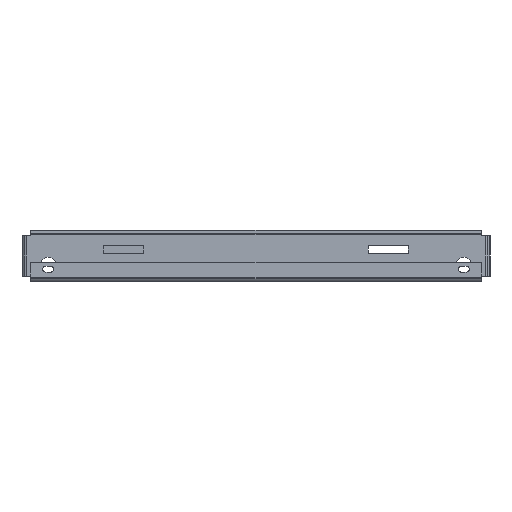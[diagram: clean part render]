
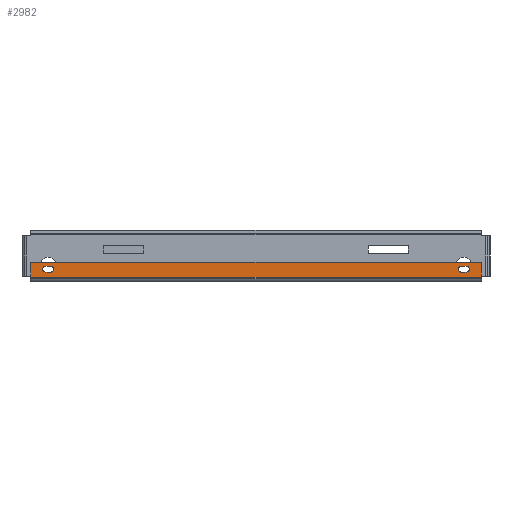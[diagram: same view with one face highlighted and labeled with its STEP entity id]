
A CAD part, front view. The second image highlights one B-rep face of the part: STEP entity #2982.
In plain terms, the highlighted planar face has unit normal (0, -1, 0) as drawn and (0, 0, -1) by its records, which use the part's own axes.
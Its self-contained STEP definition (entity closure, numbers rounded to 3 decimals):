
#11 = CARTESIAN_POINT ( 'NONE',  ( 547.294, 54.864, 0. ) ) ;
#42 = CARTESIAN_POINT ( 'NONE',  ( 10.16, 37.49, 0. ) ) ;
#127 = CARTESIAN_POINT ( 'NONE',  ( 27.877, 41.846, 0. ) ) ;
#143 = VERTEX_POINT ( 'NONE', #4566 ) ;
#175 = CARTESIAN_POINT ( 'NONE',  ( 37.008, 45.415, 0. ) ) ;
#214 = DIRECTION ( 'NONE',  ( 0., 0., 1. ) ) ;
#356 = AXIS2_PLACEMENT_3D ( 'NONE', #5348, #1552, #5995 ) ;
#382 = LINE ( 'NONE', #594, #5233 ) ;
#493 = VECTOR ( 'NONE', #5458, 1000. ) ;
#542 = ORIENTED_EDGE ( 'NONE', *, *, #5319, .T. ) ;
#594 = CARTESIAN_POINT ( 'NONE',  ( 27.877, 48.984, 0. ) ) ;
#649 = EDGE_CURVE ( 'NONE', #5526, #6110, #6862, .T. ) ;
#957 = VERTEX_POINT ( 'NONE', #3993 ) ;
#999 = CARTESIAN_POINT ( 'NONE',  ( 33.439, 45.415, 0. ) ) ;
#1020 = CARTESIAN_POINT ( 'NONE',  ( 537.134, 60.147, 0. ) ) ;
#1090 = CIRCLE ( 'NONE', #6882, 3.569 ) ;
#1095 = CARTESIAN_POINT ( 'NONE',  ( 547.294, 60.147, 0. ) ) ;
#1291 = CARTESIAN_POINT ( 'NONE',  ( 10.16, 60.147, 0. ) ) ;
#1356 = ORIENTED_EDGE ( 'NONE', *, *, #649, .T. ) ;
#1494 = CARTESIAN_POINT ( 'NONE',  ( 537.134, 54.864, 0. ) ) ;
#1510 = ORIENTED_EDGE ( 'NONE', *, *, #2686, .T. ) ;
#1552 = DIRECTION ( 'NONE',  ( 0., 0., 1. ) ) ;
#1568 = EDGE_CURVE ( 'NONE', #5241, #1810, #7700, .T. ) ;
#1623 = EDGE_CURVE ( 'NONE', #3509, #6534, #2402, .T. ) ;
#1639 = DIRECTION ( 'NONE',  ( 1., 0., 0. ) ) ;
#1729 = DIRECTION ( 'NONE',  ( 0., 0., -1. ) ) ;
#1810 = VERTEX_POINT ( 'NONE', #5204 ) ;
#1848 = EDGE_LOOP ( 'NONE', ( #8036, #1510, #1356, #4288, #4189 ) ) ;
#1924 = EDGE_CURVE ( 'NONE', #6110, #8136, #5257, .T. ) ;
#1974 = CARTESIAN_POINT ( 'NONE',  ( 27.877, 45.415, 0. ) ) ;
#2021 = CARTESIAN_POINT ( 'NONE',  ( 537.134, 37.49, 0. ) ) ;
#2363 = ORIENTED_EDGE ( 'NONE', *, *, #4015, .T. ) ;
#2364 = ORIENTED_EDGE ( 'NONE', *, *, #6526, .F. ) ;
#2402 = LINE ( 'NONE', #7715, #7311 ) ;
#2624 = DIRECTION ( 'NONE',  ( 1., 0., 0. ) ) ;
#2686 = EDGE_CURVE ( 'NONE', #5639, #5526, #6158, .T. ) ;
#2702 = CARTESIAN_POINT ( 'NONE',  ( 522.986, 45.415, 0. ) ) ;
#2729 = EDGE_CURVE ( 'NONE', #6684, #3509, #1090, .T. ) ;
#2732 = CARTESIAN_POINT ( 'NONE',  ( 547.294, 37.49, 0. ) ) ;
#2802 = VECTOR ( 'NONE', #5083, 1000. ) ;
#2868 = VERTEX_POINT ( 'NONE', #4150 ) ;
#2933 = CIRCLE ( 'NONE', #4084, 3.569 ) ;
#2954 = CARTESIAN_POINT ( 'NONE',  ( 27.877, 41.846, 0. ) ) ;
#2982 = ADVANCED_FACE ( 'NONE', ( #6053, #7581, #4166 ), #6148, .T. ) ;
#3260 = EDGE_CURVE ( 'NONE', #6534, #2868, #7063, .T. ) ;
#3320 = DIRECTION ( 'NONE',  ( 0., 0., 1. ) ) ;
#3509 = VERTEX_POINT ( 'NONE', #5039 ) ;
#3578 = DIRECTION ( 'NONE',  ( 0., 0., 1. ) ) ;
#3729 = VERTEX_POINT ( 'NONE', #1494 ) ;
#3742 = ORIENTED_EDGE ( 'NONE', *, *, #2729, .T. ) ;
#3804 = DIRECTION ( 'NONE',  ( -1., 0., 0. ) ) ;
#3824 = VERTEX_POINT ( 'NONE', #2021 ) ;
#3840 = DIRECTION ( 'NONE',  ( -1., 0., 0. ) ) ;
#3866 = ORIENTED_EDGE ( 'NONE', *, *, #1568, .T. ) ;
#3993 = CARTESIAN_POINT ( 'NONE',  ( 519.417, 41.846, 0. ) ) ;
#4014 = CARTESIAN_POINT ( 'NONE',  ( 519.417, 45.415, 0. ) ) ;
#4015 = EDGE_CURVE ( 'NONE', #3729, #3824, #5332, .T. ) ;
#4084 = AXIS2_PLACEMENT_3D ( 'NONE', #1974, #6417, #2624 ) ;
#4150 = CARTESIAN_POINT ( 'NONE',  ( 513.855, 41.846, 0. ) ) ;
#4166 = FACE_OUTER_BOUND ( 'NONE', #4826, .T. ) ;
#4189 = ORIENTED_EDGE ( 'NONE', *, *, #6468, .T. ) ;
#4288 = ORIENTED_EDGE ( 'NONE', *, *, #1924, .T. ) ;
#4359 = EDGE_LOOP ( 'NONE', ( #4452, #5913, #542, #3742, #6528 ) ) ;
#4444 = AXIS2_PLACEMENT_3D ( 'NONE', #7423, #3578, #8045 ) ;
#4452 = ORIENTED_EDGE ( 'NONE', *, *, #3260, .T. ) ;
#4469 = LINE ( 'NONE', #2732, #5955 ) ;
#4472 = VECTOR ( 'NONE', #4570, 1000. ) ;
#4566 = CARTESIAN_POINT ( 'NONE',  ( 27.877, 48.984, 0. ) ) ;
#4570 = DIRECTION ( 'NONE',  ( 1., 0., 0. ) ) ;
#4647 = DIRECTION ( 'NONE',  ( 1., 0., 0. ) ) ;
#4693 = EDGE_CURVE ( 'NONE', #143, #5639, #2933, .T. ) ;
#4786 = ORIENTED_EDGE ( 'NONE', *, *, #6122, .T. ) ;
#4826 = EDGE_LOOP ( 'NONE', ( #2363, #4786, #3866, #2364 ) ) ;
#5039 = CARTESIAN_POINT ( 'NONE',  ( 519.417, 48.984, 0. ) ) ;
#5083 = DIRECTION ( 'NONE',  ( 0., 1., 0. ) ) ;
#5204 = CARTESIAN_POINT ( 'NONE',  ( 10.16, 54.864, 0. ) ) ;
#5233 = VECTOR ( 'NONE', #7600, 1000. ) ;
#5241 = VERTEX_POINT ( 'NONE', #42 ) ;
#5257 = CIRCLE ( 'NONE', #356, 3.569 ) ;
#5319 = EDGE_CURVE ( 'NONE', #957, #6684, #6403, .T. ) ;
#5332 = LINE ( 'NONE', #1020, #493 ) ;
#5348 = CARTESIAN_POINT ( 'NONE',  ( 33.439, 45.415, 0. ) ) ;
#5426 = DIRECTION ( 'NONE',  ( 0., 0., 1. ) ) ;
#5458 = DIRECTION ( 'NONE',  ( 0., -1., 0. ) ) ;
#5526 = VERTEX_POINT ( 'NONE', #7358 ) ;
#5639 = VERTEX_POINT ( 'NONE', #2954 ) ;
#5873 = AXIS2_PLACEMENT_3D ( 'NONE', #1095, #1729, #6177 ) ;
#5883 = AXIS2_PLACEMENT_3D ( 'NONE', #7152, #3320, #7802 ) ;
#5913 = ORIENTED_EDGE ( 'NONE', *, *, #8231, .T. ) ;
#5955 = VECTOR ( 'NONE', #7846, 1000. ) ;
#5995 = DIRECTION ( 'NONE',  ( 1., 0., 0. ) ) ;
#6053 = FACE_BOUND ( 'NONE', #4359, .T. ) ;
#6110 = VERTEX_POINT ( 'NONE', #175 ) ;
#6122 = EDGE_CURVE ( 'NONE', #3824, #5241, #4469, .T. ) ;
#6148 = PLANE ( 'NONE',  #5873 ) ;
#6158 = LINE ( 'NONE', #127, #4472 ) ;
#6177 = DIRECTION ( 'NONE',  ( 0., 1., 0. ) ) ;
#6310 = DIRECTION ( 'NONE',  ( 1., 0., 0. ) ) ;
#6375 = CARTESIAN_POINT ( 'NONE',  ( 513.855, 48.984, 0. ) ) ;
#6403 = CIRCLE ( 'NONE', #5883, 3.569 ) ;
#6417 = DIRECTION ( 'NONE',  ( 0., 0., 1. ) ) ;
#6468 = EDGE_CURVE ( 'NONE', #8136, #143, #382, .T. ) ;
#6526 = EDGE_CURVE ( 'NONE', #3729, #1810, #6968, .T. ) ;
#6528 = ORIENTED_EDGE ( 'NONE', *, *, #1623, .T. ) ;
#6534 = VERTEX_POINT ( 'NONE', #6375 ) ;
#6684 = VERTEX_POINT ( 'NONE', #2702 ) ;
#6862 = CIRCLE ( 'NONE', #7569, 3.569 ) ;
#6882 = AXIS2_PLACEMENT_3D ( 'NONE', #4014, #214, #4647 ) ;
#6968 = LINE ( 'NONE', #11, #8052 ) ;
#7063 = CIRCLE ( 'NONE', #4444, 3.569 ) ;
#7152 = CARTESIAN_POINT ( 'NONE',  ( 519.417, 45.415, 0. ) ) ;
#7311 = VECTOR ( 'NONE', #3840, 1000. ) ;
#7358 = CARTESIAN_POINT ( 'NONE',  ( 33.439, 41.846, 0. ) ) ;
#7423 = CARTESIAN_POINT ( 'NONE',  ( 513.855, 45.415, 0. ) ) ;
#7535 = CARTESIAN_POINT ( 'NONE',  ( 33.439, 48.984, 0. ) ) ;
#7558 = VECTOR ( 'NONE', #6310, 1000. ) ;
#7569 = AXIS2_PLACEMENT_3D ( 'NONE', #999, #5426, #1639 ) ;
#7581 = FACE_BOUND ( 'NONE', #1848, .T. ) ;
#7600 = DIRECTION ( 'NONE',  ( -1., 0., 0. ) ) ;
#7700 = LINE ( 'NONE', #1291, #2802 ) ;
#7715 = CARTESIAN_POINT ( 'NONE',  ( 513.855, 48.984, 0. ) ) ;
#7751 = LINE ( 'NONE', #8244, #7558 ) ;
#7802 = DIRECTION ( 'NONE',  ( 1., 0., 0. ) ) ;
#7846 = DIRECTION ( 'NONE',  ( -1., 0., 0. ) ) ;
#8036 = ORIENTED_EDGE ( 'NONE', *, *, #4693, .T. ) ;
#8045 = DIRECTION ( 'NONE',  ( 1., 0., 0. ) ) ;
#8052 = VECTOR ( 'NONE', #3804, 1000. ) ;
#8136 = VERTEX_POINT ( 'NONE', #7535 ) ;
#8231 = EDGE_CURVE ( 'NONE', #2868, #957, #7751, .T. ) ;
#8244 = CARTESIAN_POINT ( 'NONE',  ( 513.855, 41.846, 0. ) ) ;
